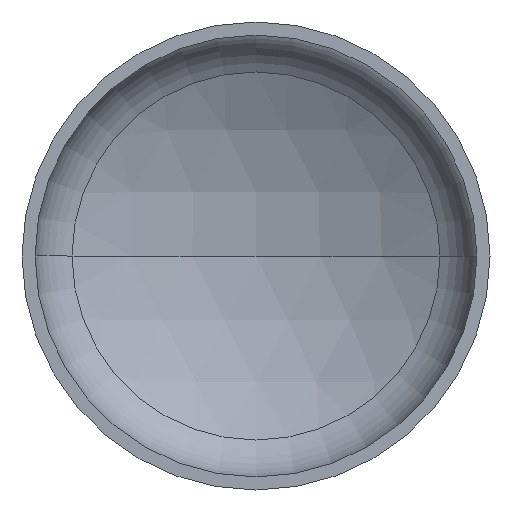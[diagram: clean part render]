
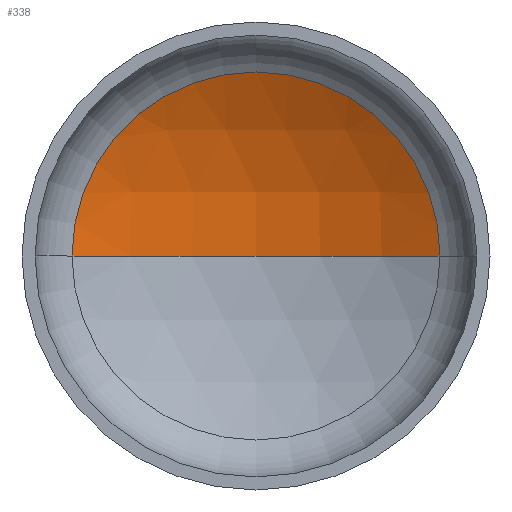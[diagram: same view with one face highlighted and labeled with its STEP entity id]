
A CAD part, front view. The second image highlights one B-rep face of the part: STEP entity #338.
In plain terms, the highlighted spherical face has radius 800 mm.
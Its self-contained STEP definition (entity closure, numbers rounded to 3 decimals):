
#17 = AXIS2_PLACEMENT_3D ( 'NONE', #265, #142, #277 ) ;
#21 = EDGE_LOOP ( 'NONE', ( #267, #229, #149 ) ) ;
#35 = AXIS2_PLACEMENT_3D ( 'NONE', #290, #287, #285 ) ;
#37 = AXIS2_PLACEMENT_3D ( 'NONE', #210, #211, #272 ) ;
#40 = AXIS2_PLACEMENT_3D ( 'NONE', #390, #158, #186 ) ;
#55 = CARTESIAN_POINT ( 'NONE',  ( 393.178, 219.988, 0. ) ) ;
#114 = VERTEX_POINT ( 'NONE', #318 ) ;
#126 = CIRCLE ( 'NONE', #35, 800. ) ;
#130 = EDGE_CURVE ( 'NONE', #237, #114, #362, .T. ) ;
#135 = CARTESIAN_POINT ( 'NONE',  ( 0., 323.274, 0. ) ) ;
#139 = EDGE_CURVE ( 'NONE', #327, #237, #403, .T. ) ;
#142 = DIRECTION ( 'NONE',  ( 0., 0., -1. ) ) ;
#149 = ORIENTED_EDGE ( 'NONE', *, *, #130, .T. ) ;
#158 = DIRECTION ( 'NONE',  ( 0., -1., 0. ) ) ;
#162 = EDGE_CURVE ( 'NONE', #327, #114, #126, .T. ) ;
#186 = DIRECTION ( 'NONE',  ( 1., 0., 0. ) ) ;
#210 = CARTESIAN_POINT ( 'NONE',  ( 0., -476.726, 0. ) ) ;
#211 = DIRECTION ( 'NONE',  ( 0., 0., -1. ) ) ;
#229 = ORIENTED_EDGE ( 'NONE', *, *, #139, .T. ) ;
#237 = VERTEX_POINT ( 'NONE', #55 ) ;
#265 = CARTESIAN_POINT ( 'NONE',  ( 0., -476.726, 0. ) ) ;
#267 = ORIENTED_EDGE ( 'NONE', *, *, #162, .F. ) ;
#270 = SPHERICAL_SURFACE ( 'NONE', #17, 800. ) ;
#272 = DIRECTION ( 'NONE',  ( -1., 0., 0. ) ) ;
#277 = DIRECTION ( 'NONE',  ( -1., 0., 0. ) ) ;
#285 = DIRECTION ( 'NONE',  ( 1., 0., 0. ) ) ;
#287 = DIRECTION ( 'NONE',  ( 0., 0., 1. ) ) ;
#290 = CARTESIAN_POINT ( 'NONE',  ( 0., -476.726, 0. ) ) ;
#318 = CARTESIAN_POINT ( 'NONE',  ( -393.178, 219.988, 0. ) ) ;
#327 = VERTEX_POINT ( 'NONE', #135 ) ;
#338 = ADVANCED_FACE ( 'NONE', ( #394 ), #270, .F. ) ;
#362 = CIRCLE ( 'NONE', #40, 393.178 ) ;
#390 = CARTESIAN_POINT ( 'NONE',  ( 0., 219.988, 0. ) ) ;
#394 = FACE_OUTER_BOUND ( 'NONE', #21, .T. ) ;
#403 = CIRCLE ( 'NONE', #37, 800. ) ;
